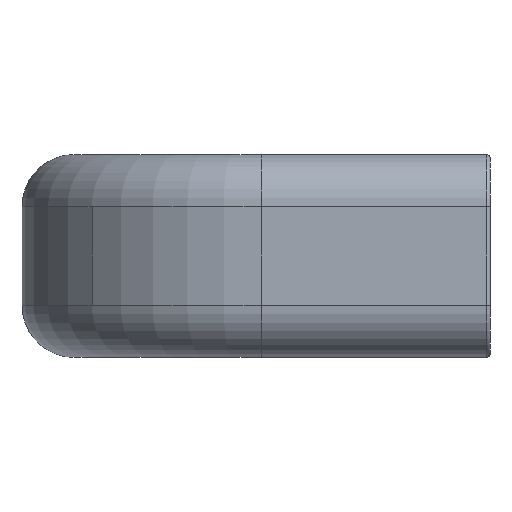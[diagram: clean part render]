
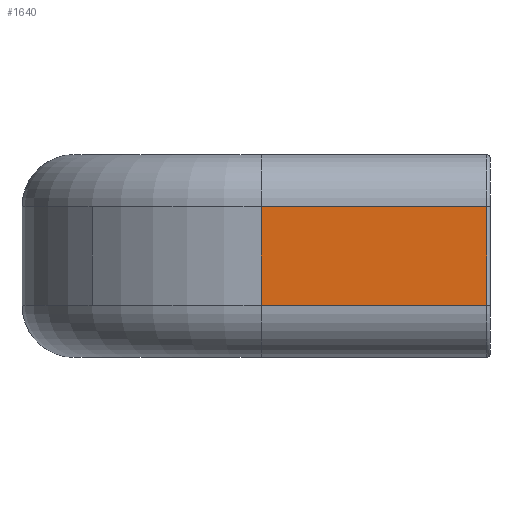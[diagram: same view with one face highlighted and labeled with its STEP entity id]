
A CAD part, left-side view. The second image highlights one B-rep face of the part: STEP entity #1640.
In plain terms, the highlighted planar face has unit normal (-1, 0, 0).
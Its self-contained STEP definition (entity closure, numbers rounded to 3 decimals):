
#330=CARTESIAN_POINT('',(-65.0,0.3,-4.5));
#331=VERTEX_POINT('',#330);
#339=CARTESIAN_POINT('',(-65.0,22.,-4.5));
#340=VERTEX_POINT('',#339);
#341=CARTESIAN_POINT('',(-65.0,22.,-4.5));
#342=DIRECTION('',(0.0,-1.0,0.0));
#343=VECTOR('',#342,21.7);
#344=LINE('',#341,#343);
#345=EDGE_CURVE('',#340,#331,#344,.T.);
#461=CARTESIAN_POINT('',(-65.0,22.,5.));
#462=VERTEX_POINT('',#461);
#463=CARTESIAN_POINT('',(-65.0,22.,-4.5));
#464=DIRECTION('',(0.0,0.0,1.0));
#465=VECTOR('',#464,9.5);
#466=LINE('',#463,#465);
#467=EDGE_CURVE('',#340,#462,#466,.T.);
#1606=CARTESIAN_POINT('',(-65.0,0.3,5.));
#1607=VERTEX_POINT('',#1606);
#1608=CARTESIAN_POINT('',(-65.0,22.,5.));
#1609=DIRECTION('',(0.0,-1.0,0.0));
#1610=VECTOR('',#1609,21.7);
#1611=LINE('',#1608,#1610);
#1612=EDGE_CURVE('',#462,#1607,#1611,.T.);
#1624=CARTESIAN_POINT('',(-65.0,-0.785,-4.975));
#1625=DIRECTION('',(1.0,0.0,0.0));
#1626=DIRECTION('',(0.0,0.0,-1.0));
#1627=AXIS2_PLACEMENT_3D('',#1624,#1625,#1626);
#1628=PLANE('',#1627);
#1629=ORIENTED_EDGE('',*,*,#345,.T.);
#1630=CARTESIAN_POINT('',(-65.0,0.3,-4.5));
#1631=DIRECTION('',(0.0,0.0,1.0));
#1632=VECTOR('',#1631,9.5);
#1633=LINE('',#1630,#1632);
#1634=EDGE_CURVE('',#331,#1607,#1633,.T.);
#1635=ORIENTED_EDGE('',*,*,#1634,.T.);
#1636=ORIENTED_EDGE('',*,*,#1612,.F.);
#1637=ORIENTED_EDGE('',*,*,#467,.F.);
#1638=EDGE_LOOP('',(#1629,#1635,#1636,#1637));
#1639=FACE_OUTER_BOUND('',#1638,.T.);
#1640=ADVANCED_FACE('',(#1639),#1628,.F.);
